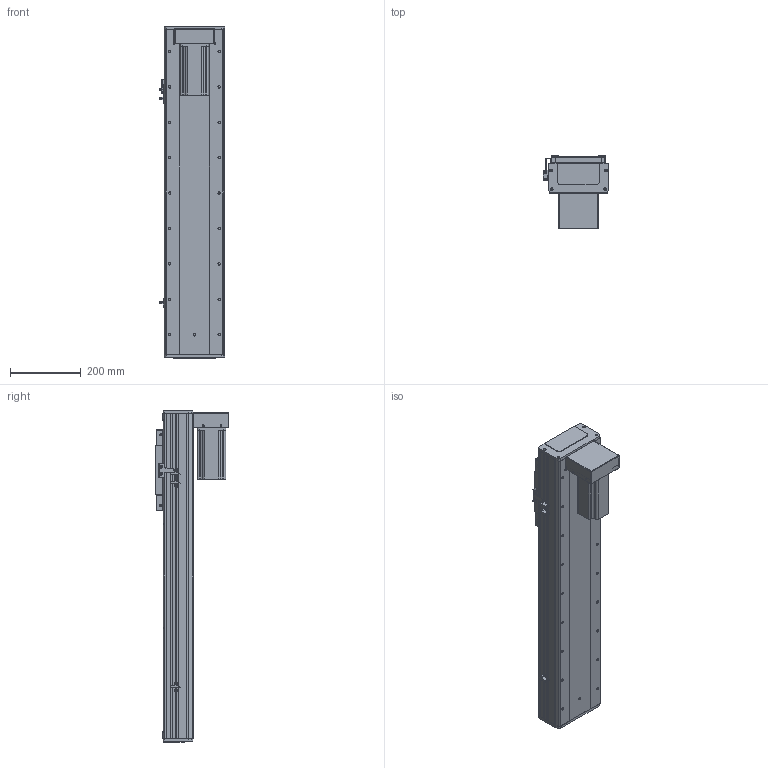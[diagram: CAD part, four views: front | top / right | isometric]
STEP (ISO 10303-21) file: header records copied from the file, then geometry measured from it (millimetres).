
FILE_DESCRIPTION (( 'STEP AP203' ), '1' );
FILE_NAME ('RY170F-L2010-300-BK.SLDASM_600.step', '2021-03-02T08:55:54', ( '盈信电脑' ), ( '东莞市道滘镇水果街19号' ), 'SwSTEP 2.0', 'SolidWorks 2012', '' );
FILE_SCHEMA (( 'CONFIG_CONTROL_DESIGN' ));
Length unit declared in the file: millimetre
Products named in the file (20): RY100F-詩湍揤踡謫; RY170F-丝杆铝滑块连接板; 滅袉蝶18-10; RY170F-綴裔啣; RY170F-滅鳥奻裔; RY170F-佪裝臏賑輸20蹟譫; RY170F-300眻蟀倰第菁釱-BK_600; RY170F-300眻蟀祥凄詩湍-MK_600; RY170F-300眻蟀倰第奻裔啣-BK_600; 覜茼ん672; RY170F俋离覜茼え; RY170F-揤踡謫假蚾粣; RY170F-詩湍揤踡輸; RY170狟殏詩湍假蚾輸; RY170F-L2010-300-BK.SLDASM_600; RY170F-狟殏萇儂假蚾啣(750W); 怢湛750W萇儂ㄗ80遺ㄘ; RY170F狟殏萇儂欶; 侐源滅袉蝶; 滅袉蝶18-24
Assembly tree (25 placements, depth 2):
  RY170F-L2010-300-BK.SLDASM_600
    RY170F-300眻蟀祥凄詩湍-MK_600
    RY170F-300眻蟀倰第奻裔啣-BK_600  x2
    RY170F-滅鳥奻裔
    RY170F-300眻蟀倰第菁釱-BK_600
    RY170F-佪裝臏賑輸20蹟譫
    RY170F-丝杆铝滑块连接板
    滅袉蝶18-10
    RY100F-詩湍揤踡謫
    RY170F-綴裔啣  x2
    覜茼ん672  x3
    RY170F俋离覜茼え
    RY170F-揤踡謫假蚾粣
    RY170F-詩湍揤踡輸  x2
    滅袉蝶18-24
    侐源滅袉蝶  x2
    RY170F-狟殏萇儂假蚾啣(750W)
    怢湛750W萇儂ㄗ80遺ㄘ
    RY170F狟殏萇儂欶
    RY170狟殏詩湍假蚾輸
Bounding box: 183.7 x 208 x 938 mm (x, y, z)
Volume: 5866343 mm3; surface area: 1881322.4 mm2
Topology: 25 solids, 25 shells, 1838 faces, 5085 edges, 3230 vertices
Faces by surface type: cylinder 872, plane 762, cone 200, bspline 4
Entity records: 51340 total; most frequent: CARTESIAN_POINT 10250, DIRECTION 8326, ORIENTED_EDGE 7926, EDGE_CURVE 3963, AXIS2_PLACEMENT_3D 3002, VERTEX_POINT 2586, VECTOR 2322, LINE 2322
